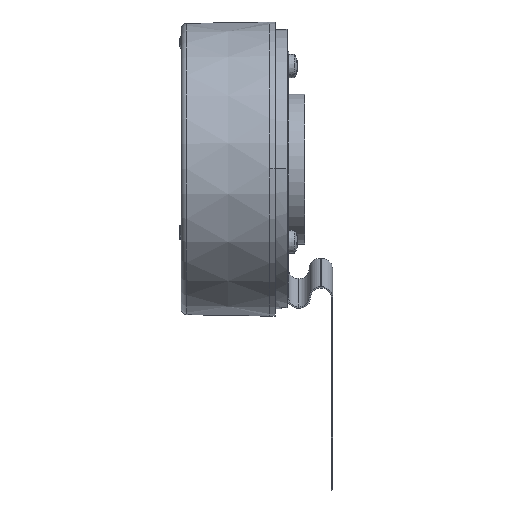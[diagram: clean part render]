
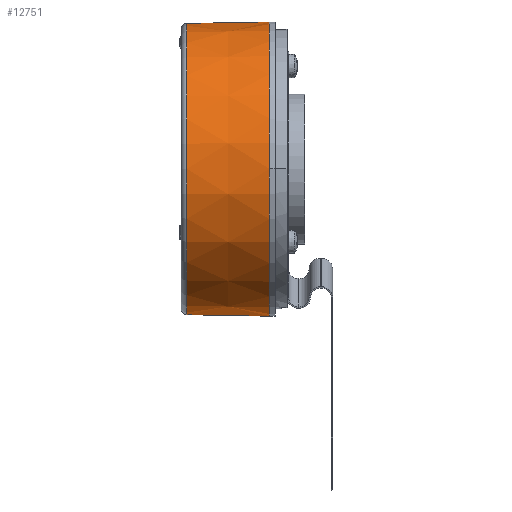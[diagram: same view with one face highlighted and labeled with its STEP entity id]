
A CAD part, top view. The second image highlights one B-rep face of the part: STEP entity #12751.
In plain terms, the highlighted conical face has half-angle 1 degrees and reference radius 50 mm.
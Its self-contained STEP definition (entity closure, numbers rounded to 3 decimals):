
#96 = CONICAL_SURFACE ( 'NONE', #22692, 50., 0.017 ) ;
#573 = EDGE_CURVE ( 'NONE', #21432, #8187, #15442, .T. ) ;
#682 = FACE_OUTER_BOUND ( 'NONE', #11984, .T. ) ;
#1480 = ORIENTED_EDGE ( 'NONE', *, *, #7222, .T. ) ;
#2356 = CARTESIAN_POINT ( 'NONE',  ( 43.227, -3.167, 0. ) ) ;
#2693 = ORIENTED_EDGE ( 'NONE', *, *, #573, .T. ) ;
#2757 = EDGE_CURVE ( 'NONE', #21432, #13637, #9886, .T. ) ;
#3136 = AXIS2_PLACEMENT_3D ( 'NONE', #17690, #6667, #19532 ) ;
#3987 = CARTESIAN_POINT ( 'NONE',  ( 43.227, 46.833, 0. ) ) ;
#4213 = DIRECTION ( 'NONE',  ( 0., 1., 0. ) ) ;
#5701 = CARTESIAN_POINT ( 'NONE',  ( 43.227, -53.167, 0. ) ) ;
#5833 = DIRECTION ( 'NONE',  ( 1., 0.017, 0. ) ) ;
#6169 = VERTEX_POINT ( 'NONE', #18845 ) ;
#6667 = DIRECTION ( 'NONE',  ( 1., 0., 0. ) ) ;
#6741 = AXIS2_PLACEMENT_3D ( 'NONE', #2356, #15227, #4213 ) ;
#7222 = EDGE_CURVE ( 'NONE', #6169, #13637, #11832, .T. ) ;
#7334 = CARTESIAN_POINT ( 'NONE',  ( 43.227, -3.167, 0. ) ) ;
#8187 = VERTEX_POINT ( 'NONE', #22468 ) ;
#9314 = VECTOR ( 'NONE', #5833, 1000. ) ;
#9886 = LINE ( 'NONE', #3987, #9314 ) ;
#10358 = CARTESIAN_POINT ( 'NONE',  ( 15.192, 46.344, 0. ) ) ;
#11006 = LINE ( 'NONE', #5701, #15345 ) ;
#11151 = ORIENTED_EDGE ( 'NONE', *, *, #2757, .F. ) ;
#11754 = CARTESIAN_POINT ( 'NONE',  ( 43.227, 46.833, 0. ) ) ;
#11832 = CIRCLE ( 'NONE', #6741, 50. ) ;
#11984 = EDGE_LOOP ( 'NONE', ( #11151, #2693, #14637, #1480 ) ) ;
#12751 = ADVANCED_FACE ( 'NONE', ( #682 ), #96, .T. ) ;
#13637 = VERTEX_POINT ( 'NONE', #11754 ) ;
#14637 = ORIENTED_EDGE ( 'NONE', *, *, #15671, .T. ) ;
#15227 = DIRECTION ( 'NONE',  ( -1., 0., 0. ) ) ;
#15345 = VECTOR ( 'NONE', #18560, 1000. ) ;
#15442 = CIRCLE ( 'NONE', #3136, 49.511 ) ;
#15671 = EDGE_CURVE ( 'NONE', #8187, #6169, #11006, .T. ) ;
#17690 = CARTESIAN_POINT ( 'NONE',  ( 15.192, -3.167, 0. ) ) ;
#18358 = DIRECTION ( 'NONE',  ( 0., -1., 0. ) ) ;
#18560 = DIRECTION ( 'NONE',  ( 1., -0.017, 0. ) ) ;
#18845 = CARTESIAN_POINT ( 'NONE',  ( 43.227, -53.167, 0. ) ) ;
#19532 = DIRECTION ( 'NONE',  ( 0., 1., 0. ) ) ;
#21432 = VERTEX_POINT ( 'NONE', #10358 ) ;
#22014 = DIRECTION ( 'NONE',  ( 1., 0., 0. ) ) ;
#22468 = CARTESIAN_POINT ( 'NONE',  ( 15.192, -52.677, 0. ) ) ;
#22692 = AXIS2_PLACEMENT_3D ( 'NONE', #7334, #22014, #18358 ) ;
